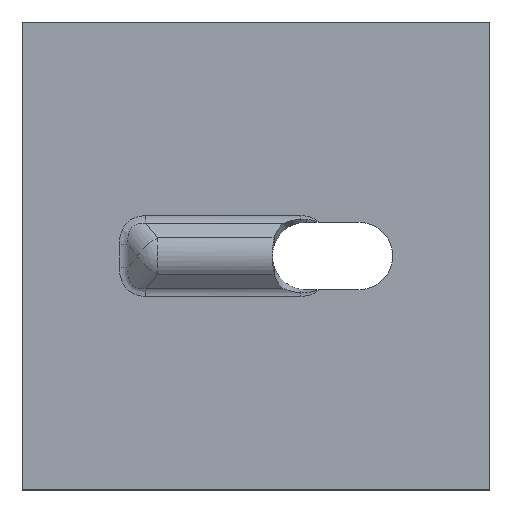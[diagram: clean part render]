
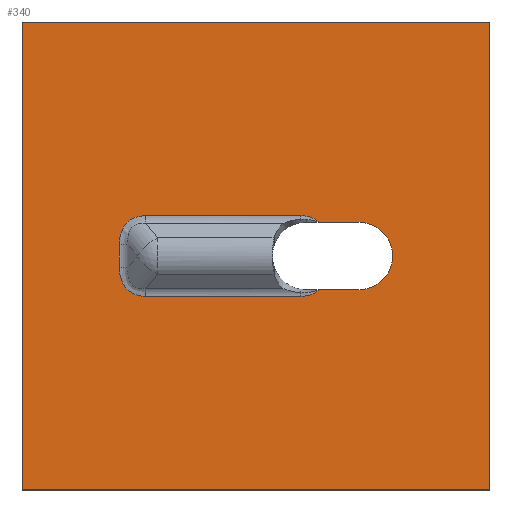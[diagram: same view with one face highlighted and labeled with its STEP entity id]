
A CAD part, top view. The second image highlights one B-rep face of the part: STEP entity #340.
In plain terms, the highlighted planar face has unit normal (0, 0, 1).
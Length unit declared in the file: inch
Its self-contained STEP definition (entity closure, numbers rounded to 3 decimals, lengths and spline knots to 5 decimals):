
#34=CARTESIAN_POINT('',(7.16968,0.7875,0.));
#35=VERTEX_POINT('',#34);
#42=CARTESIAN_POINT('',(7.16968,-0.7125,0.));
#43=VERTEX_POINT('',#42);
#44=CARTESIAN_POINT('',(7.16968,4.86698,0.));
#45=DIRECTION('',(0.,1.,0.));
#46=VECTOR('',#45,1.);
#47=LINE('',#44,#46);
#48=EDGE_CURVE('',#43,#35,#47,.T.);
#194=CARTESIAN_POINT('',(5.66968,-0.7125,0.));
#195=VERTEX_POINT('',#194);
#204=CARTESIAN_POINT('',(8.53557,-0.7125,0.));
#205=DIRECTION('',(1.,0.,0.));
#206=VECTOR('',#205,1.);
#207=LINE('',#204,#206);
#208=EDGE_CURVE('',#195,#43,#207,.T.);
#218=CARTESIAN_POINT('',(5.66968,0.7875,0.));
#219=VERTEX_POINT('',#218);
#220=CARTESIAN_POINT('',(5.66968,-10.58895,0.));
#221=DIRECTION('',(0.,-1.,0.));
#222=VECTOR('',#221,1.);
#223=LINE('',#220,#222);
#224=EDGE_CURVE('',#219,#195,#223,.T.);
#225=ORIENTED_EDGE('',*,*,#224,.T.);
#226=ORIENTED_EDGE('',*,*,#208,.T.);
#227=ORIENTED_EDGE('',*,*,#48,.T.);
#228=CARTESIAN_POINT('',(-7.78727,0.7875,0.));
#229=DIRECTION('',(-1.,0.,0.));
#230=VECTOR('',#229,1.);
#231=LINE('',#228,#230);
#232=EDGE_CURVE('',#35,#219,#231,.T.);
#233=ORIENTED_EDGE('',*,*,#232,.T.);
#234=EDGE_LOOP('',(#225,#226,#227,#233));
#235=FACE_OUTER_BOUND('',#234,.T.);
#236=CARTESIAN_POINT('',(6.56388,-0.09162,0.));
#237=VERTEX_POINT('',#236);
#238=CARTESIAN_POINT('',(6.62223,-0.0705,0.));
#239=VERTEX_POINT('',#238);
#240=CARTESIAN_POINT('',(6.56388,-0.09162,0.));
#241=CARTESIAN_POINT('',(6.57221,-0.09162,0.));
#242=CARTESIAN_POINT('',(6.58764,-0.0899,0.));
#243=CARTESIAN_POINT('',(6.60769,-0.08226,0.));
#244=CARTESIAN_POINT('',(6.61776,-0.07477,0.));
#245=CARTESIAN_POINT('',(6.62223,-0.0705,0.));
#246=B_SPLINE_CURVE_WITH_KNOTS('',3,(#240,#241,#242,#243,#244,#245),.UNSPECIFIED.,.F.,.F.,(4,1,1,4),(0.,0.33333,0.66667,1.),.UNSPECIFIED.);
#247=EDGE_CURVE('',#237,#239,#246,.T.);
#248=ORIENTED_EDGE('',*,*,#247,.F.);
#249=CARTESIAN_POINT('',(6.06612,-0.09162,0.));
#250=VERTEX_POINT('',#249);
#251=CARTESIAN_POINT('',(6.06612,-0.09162,0.));
#252=DIRECTION('',(1.,0.,0.));
#253=VECTOR('',#252,0.49775);
#254=LINE('',#251,#253);
#255=EDGE_CURVE('',#250,#237,#254,.T.);
#256=ORIENTED_EDGE('',*,*,#255,.F.);
#257=CARTESIAN_POINT('',(5.98186,0.00108,0.));
#258=VERTEX_POINT('',#257);
#259=CARTESIAN_POINT('',(5.98186,0.00108,0.));
#260=CARTESIAN_POINT('',(5.98186,-0.01051,0.));
#261=CARTESIAN_POINT('',(5.98433,-0.03165,0.));
#262=CARTESIAN_POINT('',(5.99565,-0.0582,0.));
#263=CARTESIAN_POINT('',(6.01278,-0.07672,0.));
#264=CARTESIAN_POINT('',(6.03586,-0.08869,0.));
#265=CARTESIAN_POINT('',(6.05536,-0.09162,0.));
#266=CARTESIAN_POINT('',(6.06612,-0.09162,0.));
#267=B_SPLINE_CURVE_WITH_KNOTS('',3,(#259,#260,#261,#262,#263,#264,#265,#266),.UNSPECIFIED.,.F.,.F.,(4,1,1,1,1,4),(0.,0.2,0.4,0.6,0.8,1.),.UNSPECIFIED.);
#268=EDGE_CURVE('',#258,#250,#267,.T.);
#269=ORIENTED_EDGE('',*,*,#268,.F.);
#270=CARTESIAN_POINT('',(5.98186,0.07392,0.));
#271=VERTEX_POINT('',#270);
#272=CARTESIAN_POINT('',(5.98186,0.07392,0.));
#273=DIRECTION('',(0.,-1.,0.));
#274=VECTOR('',#273,0.07285);
#275=LINE('',#272,#274);
#276=EDGE_CURVE('',#271,#258,#275,.T.);
#277=ORIENTED_EDGE('',*,*,#276,.F.);
#278=CARTESIAN_POINT('',(6.06612,0.16662,0.));
#279=VERTEX_POINT('',#278);
#280=CARTESIAN_POINT('',(6.06612,0.16662,0.));
#281=CARTESIAN_POINT('',(6.05536,0.16662,0.));
#282=CARTESIAN_POINT('',(6.03587,0.16369,0.));
#283=CARTESIAN_POINT('',(6.01278,0.15172,0.));
#284=CARTESIAN_POINT('',(5.99565,0.13321,0.));
#285=CARTESIAN_POINT('',(5.98433,0.10665,0.));
#286=CARTESIAN_POINT('',(5.98186,0.08551,0.));
#287=CARTESIAN_POINT('',(5.98186,0.07392,0.));
#288=B_SPLINE_CURVE_WITH_KNOTS('',3,(#280,#281,#282,#283,#284,#285,#286,#287),.UNSPECIFIED.,.F.,.F.,(4,1,1,1,1,4),(0.,0.2,0.4,0.6,0.8,1.),.UNSPECIFIED.);
#289=EDGE_CURVE('',#279,#271,#288,.T.);
#290=ORIENTED_EDGE('',*,*,#289,.F.);
#291=CARTESIAN_POINT('',(6.56388,0.16662,0.));
#292=VERTEX_POINT('',#291);
#293=CARTESIAN_POINT('',(6.56388,0.16662,0.));
#294=DIRECTION('',(-1.,0.,0.));
#295=VECTOR('',#294,0.49775);
#296=LINE('',#293,#295);
#297=EDGE_CURVE('',#292,#279,#296,.T.);
#298=ORIENTED_EDGE('',*,*,#297,.F.);
#299=CARTESIAN_POINT('',(6.62223,0.1455,0.));
#300=VERTEX_POINT('',#299);
#301=CARTESIAN_POINT('',(6.62223,0.1455,0.));
#302=CARTESIAN_POINT('',(6.61776,0.14977,0.));
#303=CARTESIAN_POINT('',(6.60769,0.15726,0.));
#304=CARTESIAN_POINT('',(6.58764,0.16491,0.));
#305=CARTESIAN_POINT('',(6.57221,0.16662,0.));
#306=CARTESIAN_POINT('',(6.56388,0.16662,0.));
#307=B_SPLINE_CURVE_WITH_KNOTS('',3,(#301,#302,#303,#304,#305,#306),.UNSPECIFIED.,.F.,.F.,(4,1,1,4),(0.,0.33333,0.66667,1.),.UNSPECIFIED.);
#308=EDGE_CURVE('',#300,#292,#307,.T.);
#309=ORIENTED_EDGE('',*,*,#308,.F.);
#310=CARTESIAN_POINT('',(6.7495,0.1455,0.));
#311=VERTEX_POINT('',#310);
#312=CARTESIAN_POINT('',(6.62223,0.1455,0.));
#313=DIRECTION('',(1.,0.,0.));
#314=VECTOR('',#313,0.12727);
#315=LINE('',#312,#314);
#316=EDGE_CURVE('',#300,#311,#315,.T.);
#317=ORIENTED_EDGE('',*,*,#316,.T.);
#318=CARTESIAN_POINT('',(6.7495,-0.0705,0.));
#319=VERTEX_POINT('',#318);
#320=CARTESIAN_POINT('',(6.7495,0.0375,0.));
#321=DIRECTION('',(0.,0.,1.));
#322=DIRECTION('',(0.,-1.,0.));
#323=AXIS2_PLACEMENT_3D('',#320,#321,#322);
#324=CIRCLE('',#323,0.108);
#325=EDGE_CURVE('',#319,#311,#324,.T.);
#326=ORIENTED_EDGE('',*,*,#325,.F.);
#327=CARTESIAN_POINT('',(6.7495,-0.0705,0.));
#328=DIRECTION('',(-1.,0.,0.));
#329=VECTOR('',#328,0.12727);
#330=LINE('',#327,#329);
#331=EDGE_CURVE('',#319,#239,#330,.T.);
#332=ORIENTED_EDGE('',*,*,#331,.T.);
#333=EDGE_LOOP('',(#248,#256,#269,#277,#290,#298,#309,#317,#326,#332));
#334=FACE_BOUND('',#333,.T.);
#335=CARTESIAN_POINT('',(0.015,0.0375,0.));
#336=DIRECTION('',(0.,0.,-1.));
#337=DIRECTION('',(1.,0.,0.));
#338=AXIS2_PLACEMENT_3D('',#335,#336,#337);
#339=PLANE('',#338);
#340=ADVANCED_FACE('',(#235,#334),#339,.F.);
